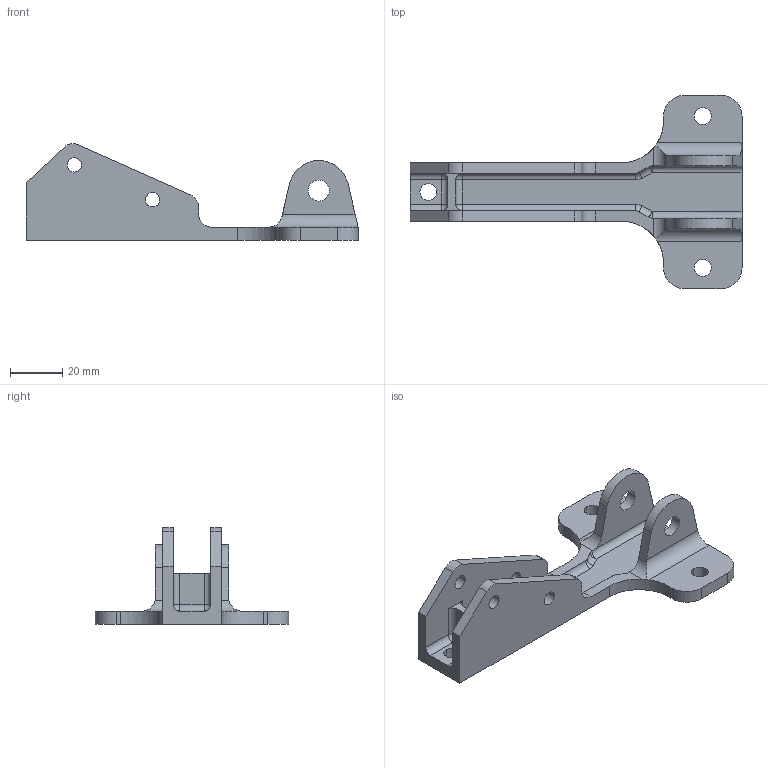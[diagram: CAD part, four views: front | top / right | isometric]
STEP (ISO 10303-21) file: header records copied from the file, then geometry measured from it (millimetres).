
FILE_DESCRIPTION(('CATIA V5 STEP Exchange'),'2;1');
FILE_NAME('C:\Users\Hashaam\Documents\CAD_Project\review\Part 2&3.stp','2026-10-06T14:10:58+00:00',('none'),('none'),'CATIA Version 5 Release 21 GA (IN-10)','CATIA V5 STEP AP203','none');
FILE_SCHEMA(('CONFIG_CONTROL_DESIGN'));
Length unit declared in the file: millimetre
Products named in the file (1): Brake_Platform_2
Bounding box: 127 x 74 x 36.89 mm (x, y, z)
Volume: 69185.9 mm3; surface area: 40491 mm2
Topology: 2 solids, 2 shells, 184 faces, 520 edges, 328 vertices
Faces by surface type: cylinder 100, plane 68, sphere 12, torus 4
Entity records: 3785 total; most frequent: ORIENTED_EDGE 1016, CARTESIAN_POINT 654, DIRECTION 384, EDGE_CURVE 254, EDGE_LOOP 220, ADVANCED_FACE 184, FACE_OUTER_BOUND 184, AXIS2_PLACEMENT_3D 171
